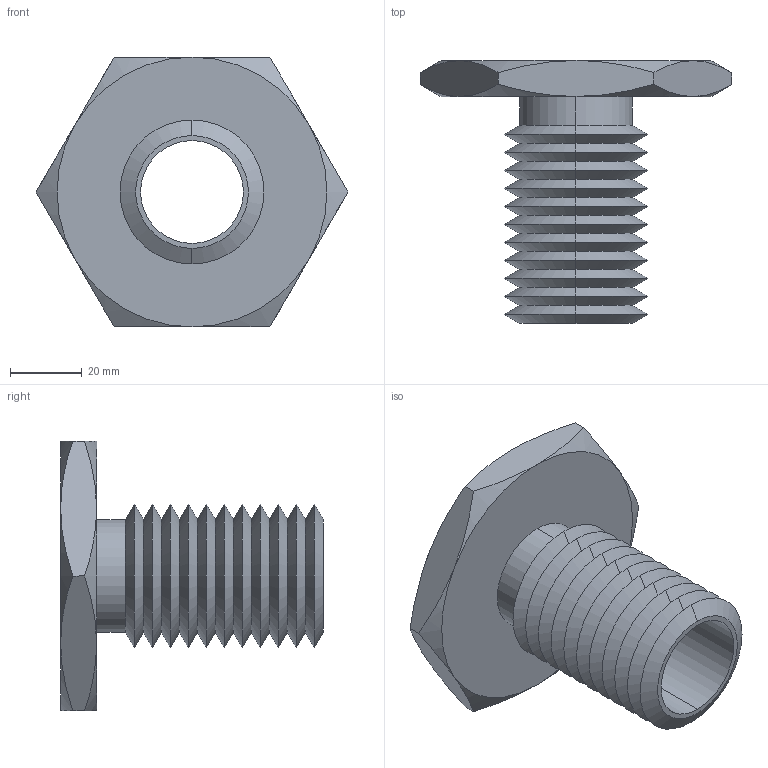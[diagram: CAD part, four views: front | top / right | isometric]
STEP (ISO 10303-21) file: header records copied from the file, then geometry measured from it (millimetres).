
FILE_DESCRIPTION (( 'STEP AP203' ), '1' );
FILE_NAME ('63302.W0042_1,12 UNC-7.step', '2013-12-08T11:16:14', ( 'User' ), ( '' ), 'SwSTEP 2.0', 'SolidWorks 2009', '' );
FILE_SCHEMA (( 'CONFIG_CONTROL_DESIGN' ));
Length unit declared in the file: millimetre
Products named in the file (1): 63302.W0042_1,12 UNC-7
Bounding box: 86.6 x 73 x 75 mm (x, y, z)
Volume: 61727.3 mm3; surface area: 30096.1 mm2
Topology: 1 solids, 1 shells, 71 faces, 146 edges, 78 vertices
Faces by surface type: cone 58, plane 9, cylinder 4
Entity records: 2039 total; most frequent: CARTESIAN_POINT 480, DIRECTION 332, ORIENTED_EDGE 292, EDGE_CURVE 146, AXIS2_PLACEMENT_3D 138, VERTEX_POINT 78, EDGE_LOOP 74, ADVANCED_FACE 71
